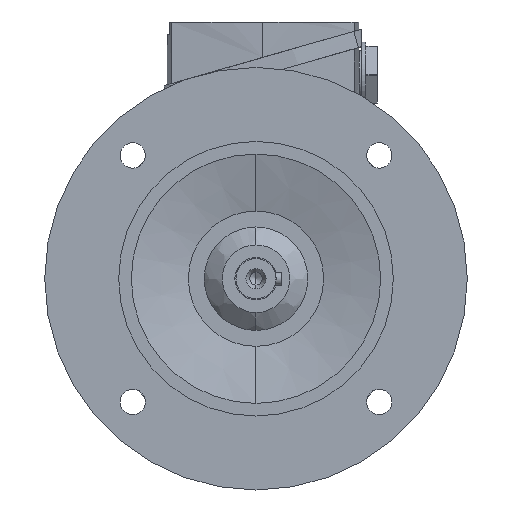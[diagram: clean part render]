
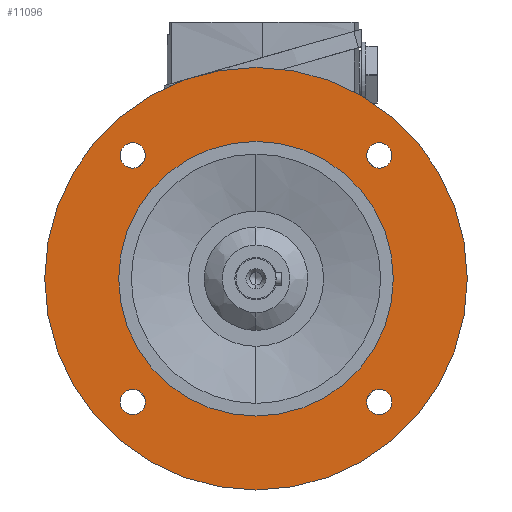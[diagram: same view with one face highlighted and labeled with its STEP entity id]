
A CAD part, left-side view. The second image highlights one B-rep face of the part: STEP entity #11096.
In plain terms, the highlighted planar face has unit normal (-1, 0, 0).
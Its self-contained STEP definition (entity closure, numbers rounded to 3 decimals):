
#25 = EDGE_LOOP ( 'NONE', ( #961, #12703 ) ) ;
#40 = DIRECTION ( 'NONE',  ( 0., 0., -1. ) ) ;
#384 = FACE_BOUND ( 'NONE', #25, .T. ) ;
#498 = DIRECTION ( 'NONE',  ( 0., 0., -1. ) ) ;
#891 = DIRECTION ( 'NONE',  ( 1., 0., 0. ) ) ;
#961 = ORIENTED_EDGE ( 'NONE', *, *, #16507, .T. ) ;
#1381 = FACE_BOUND ( 'NONE', #15458, .T. ) ;
#1458 = VERTEX_POINT ( 'NONE', #2461 ) ;
#1714 = CIRCLE ( 'NONE', #13167, 6. ) ;
#2461 = CARTESIAN_POINT ( 'NONE',  ( -27., 0., -100. ) ) ;
#2622 = CIRCLE ( 'NONE', #3876, 65. ) ;
#2762 = DIRECTION ( 'NONE',  ( 1., 0., 0. ) ) ;
#2948 = EDGE_CURVE ( 'NONE', #10187, #3897, #1714, .T. ) ;
#3052 = CIRCLE ( 'NONE', #5117, 100. ) ;
#3448 = EDGE_CURVE ( 'NONE', #1458, #9924, #3052, .T. ) ;
#3753 = CIRCLE ( 'NONE', #3817, 65. ) ;
#3817 = AXIS2_PLACEMENT_3D ( 'NONE', #10638, #891, #12267 ) ;
#3861 = CIRCLE ( 'NONE', #14890, 6. ) ;
#3876 = AXIS2_PLACEMENT_3D ( 'NONE', #8560, #19902, #10180 ) ;
#3897 = VERTEX_POINT ( 'NONE', #12437 ) ;
#4203 = DIRECTION ( 'NONE',  ( 0., 0., 1. ) ) ;
#4244 = DIRECTION ( 'NONE',  ( 1., 0., 0. ) ) ;
#4297 = CARTESIAN_POINT ( 'NONE',  ( -27., 0., 0. ) ) ;
#4672 = CARTESIAN_POINT ( 'NONE',  ( -27., 0., -65. ) ) ;
#4681 = FACE_BOUND ( 'NONE', #9374, .T. ) ;
#4762 = DIRECTION ( 'NONE',  ( 1., 0., 0. ) ) ;
#5117 = AXIS2_PLACEMENT_3D ( 'NONE', #4297, #4244, #4203 ) ;
#5248 = DIRECTION ( 'NONE',  ( 1., 0., 0. ) ) ;
#5579 = DIRECTION ( 'NONE',  ( 1., 0., 0. ) ) ;
#5787 = AXIS2_PLACEMENT_3D ( 'NONE', #7599, #15775, #6014 ) ;
#6014 = DIRECTION ( 'NONE',  ( 0., 0., 1. ) ) ;
#6672 = VERTEX_POINT ( 'NONE', #9205 ) ;
#6819 = CARTESIAN_POINT ( 'NONE',  ( -27., -58.336, 64.336 ) ) ;
#6884 = CARTESIAN_POINT ( 'NONE',  ( -27., 58.336, 64.336 ) ) ;
#7070 = EDGE_CURVE ( 'NONE', #18050, #13571, #9777, .T. ) ;
#7210 = AXIS2_PLACEMENT_3D ( 'NONE', #14530, #4762, #16183 ) ;
#7573 = CARTESIAN_POINT ( 'NONE',  ( -27., -58.336, -58.336 ) ) ;
#7599 = CARTESIAN_POINT ( 'NONE',  ( -27., 82.5, 0. ) ) ;
#7616 = DIRECTION ( 'NONE',  ( 1., 0., 0. ) ) ;
#8560 = CARTESIAN_POINT ( 'NONE',  ( -27., 0., 0. ) ) ;
#9144 = CARTESIAN_POINT ( 'NONE',  ( -27., -58.336, 58.336 ) ) ;
#9205 = CARTESIAN_POINT ( 'NONE',  ( -27., -58.336, -64.336 ) ) ;
#9223 = DIRECTION ( 'NONE',  ( 0., 0., -1. ) ) ;
#9338 = EDGE_CURVE ( 'NONE', #13676, #20625, #3861, .T. ) ;
#9374 = EDGE_LOOP ( 'NONE', ( #15118, #18615 ) ) ;
#9574 = EDGE_CURVE ( 'NONE', #15111, #6672, #16432, .T. ) ;
#9777 = CIRCLE ( 'NONE', #14862, 6. ) ;
#9795 = DIRECTION ( 'NONE',  ( 1., 0., 0. ) ) ;
#9846 = ORIENTED_EDGE ( 'NONE', *, *, #7070, .T. ) ;
#9924 = VERTEX_POINT ( 'NONE', #20178 ) ;
#10180 = DIRECTION ( 'NONE',  ( 0., 0., 1. ) ) ;
#10187 = VERTEX_POINT ( 'NONE', #6884 ) ;
#10246 = DIRECTION ( 'NONE',  ( 1., 0., 0. ) ) ;
#10638 = CARTESIAN_POINT ( 'NONE',  ( -27., 0., 0. ) ) ;
#10688 = CARTESIAN_POINT ( 'NONE',  ( -27., 0., 65. ) ) ;
#10771 = DIRECTION ( 'NONE',  ( 0., 0., -1. ) ) ;
#10806 = AXIS2_PLACEMENT_3D ( 'NONE', #19514, #9795, #40 ) ;
#10985 = EDGE_CURVE ( 'NONE', #20625, #13676, #18699, .T. ) ;
#11020 = CARTESIAN_POINT ( 'NONE',  ( -27., -58.336, 52.336 ) ) ;
#11096 = ADVANCED_FACE ( 'NONE', ( #1381, #17697, #4681, #384, #17189, #12838 ), #15705, .T. ) ;
#11777 = EDGE_CURVE ( 'NONE', #14630, #14477, #2622, .T. ) ;
#12267 = DIRECTION ( 'NONE',  ( 0., 0., 1. ) ) ;
#12437 = CARTESIAN_POINT ( 'NONE',  ( -27., 58.336, 52.336 ) ) ;
#12530 = CARTESIAN_POINT ( 'NONE',  ( -27., -58.336, -58.336 ) ) ;
#12703 = ORIENTED_EDGE ( 'NONE', *, *, #2948, .T. ) ;
#12744 = AXIS2_PLACEMENT_3D ( 'NONE', #19964, #10246, #498 ) ;
#12838 = FACE_BOUND ( 'NONE', #16550, .T. ) ;
#13022 = ORIENTED_EDGE ( 'NONE', *, *, #14203, .F. ) ;
#13167 = AXIS2_PLACEMENT_3D ( 'NONE', #15677, #5248, #16595 ) ;
#13571 = VERTEX_POINT ( 'NONE', #20374 ) ;
#13676 = VERTEX_POINT ( 'NONE', #11020 ) ;
#14163 = DIRECTION ( 'NONE',  ( 0., 0., -1. ) ) ;
#14203 = EDGE_CURVE ( 'NONE', #9924, #1458, #16061, .T. ) ;
#14318 = ORIENTED_EDGE ( 'NONE', *, *, #11777, .T. ) ;
#14477 = VERTEX_POINT ( 'NONE', #10688 ) ;
#14530 = CARTESIAN_POINT ( 'NONE',  ( -27., 0., 0. ) ) ;
#14630 = VERTEX_POINT ( 'NONE', #4672 ) ;
#14723 = ORIENTED_EDGE ( 'NONE', *, *, #9574, .T. ) ;
#14850 = ORIENTED_EDGE ( 'NONE', *, *, #17252, .T. ) ;
#14862 = AXIS2_PLACEMENT_3D ( 'NONE', #15352, #5579, #16999 ) ;
#14890 = AXIS2_PLACEMENT_3D ( 'NONE', #9144, #20462, #10771 ) ;
#15111 = VERTEX_POINT ( 'NONE', #17976 ) ;
#15118 = ORIENTED_EDGE ( 'NONE', *, *, #9338, .T. ) ;
#15352 = CARTESIAN_POINT ( 'NONE',  ( -27., 58.336, -58.336 ) ) ;
#15442 = EDGE_CURVE ( 'NONE', #6672, #15111, #16529, .T. ) ;
#15458 = EDGE_LOOP ( 'NONE', ( #14850, #14318 ) ) ;
#15677 = CARTESIAN_POINT ( 'NONE',  ( -27., 58.336, 58.336 ) ) ;
#15705 = PLANE ( 'NONE',  #5787 ) ;
#15775 = DIRECTION ( 'NONE',  ( -1., 0., 0. ) ) ;
#15969 = AXIS2_PLACEMENT_3D ( 'NONE', #17370, #7616, #18988 ) ;
#16061 = CIRCLE ( 'NONE', #7210, 100. ) ;
#16183 = DIRECTION ( 'NONE',  ( 0., 0., 1. ) ) ;
#16432 = CIRCLE ( 'NONE', #17776, 6. ) ;
#16507 = EDGE_CURVE ( 'NONE', #3897, #10187, #17513, .T. ) ;
#16529 = CIRCLE ( 'NONE', #19752, 6. ) ;
#16550 = EDGE_LOOP ( 'NONE', ( #20850, #14723 ) ) ;
#16595 = DIRECTION ( 'NONE',  ( 0., 0., -1. ) ) ;
#16999 = DIRECTION ( 'NONE',  ( 0., 0., -1. ) ) ;
#17080 = EDGE_CURVE ( 'NONE', #13571, #18050, #19513, .T. ) ;
#17189 = FACE_BOUND ( 'NONE', #20893, .T. ) ;
#17252 = EDGE_CURVE ( 'NONE', #14477, #14630, #3753, .T. ) ;
#17370 = CARTESIAN_POINT ( 'NONE',  ( -27., 58.336, 58.336 ) ) ;
#17513 = CIRCLE ( 'NONE', #15969, 6. ) ;
#17697 = FACE_OUTER_BOUND ( 'NONE', #20710, .T. ) ;
#17776 = AXIS2_PLACEMENT_3D ( 'NONE', #12530, #2762, #14163 ) ;
#17976 = CARTESIAN_POINT ( 'NONE',  ( -27., -58.336, -52.336 ) ) ;
#18050 = VERTEX_POINT ( 'NONE', #19611 ) ;
#18204 = ORIENTED_EDGE ( 'NONE', *, *, #3448, .F. ) ;
#18572 = ORIENTED_EDGE ( 'NONE', *, *, #17080, .T. ) ;
#18615 = ORIENTED_EDGE ( 'NONE', *, *, #10985, .T. ) ;
#18699 = CIRCLE ( 'NONE', #12744, 6. ) ;
#18943 = DIRECTION ( 'NONE',  ( 1., 0., 0. ) ) ;
#18988 = DIRECTION ( 'NONE',  ( 0., 0., -1. ) ) ;
#19513 = CIRCLE ( 'NONE', #10806, 6. ) ;
#19514 = CARTESIAN_POINT ( 'NONE',  ( -27., 58.336, -58.336 ) ) ;
#19611 = CARTESIAN_POINT ( 'NONE',  ( -27., 58.336, -52.336 ) ) ;
#19752 = AXIS2_PLACEMENT_3D ( 'NONE', #7573, #18943, #9223 ) ;
#19902 = DIRECTION ( 'NONE',  ( 1., 0., 0. ) ) ;
#19964 = CARTESIAN_POINT ( 'NONE',  ( -27., -58.336, 58.336 ) ) ;
#20178 = CARTESIAN_POINT ( 'NONE',  ( -27., 0., 100. ) ) ;
#20374 = CARTESIAN_POINT ( 'NONE',  ( -27., 58.336, -64.336 ) ) ;
#20462 = DIRECTION ( 'NONE',  ( 1., 0., 0. ) ) ;
#20625 = VERTEX_POINT ( 'NONE', #6819 ) ;
#20710 = EDGE_LOOP ( 'NONE', ( #13022, #18204 ) ) ;
#20850 = ORIENTED_EDGE ( 'NONE', *, *, #15442, .T. ) ;
#20893 = EDGE_LOOP ( 'NONE', ( #18572, #9846 ) ) ;
